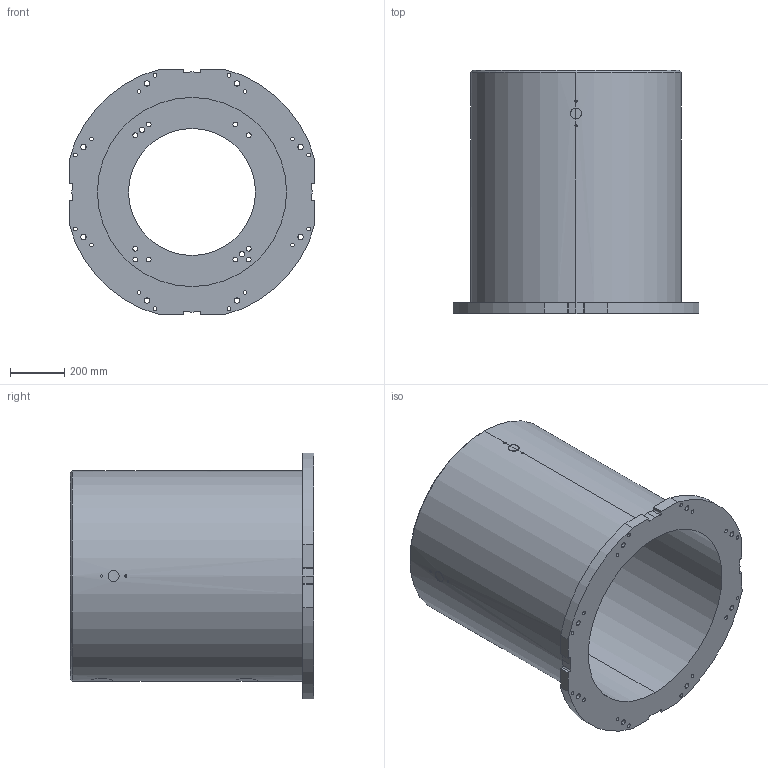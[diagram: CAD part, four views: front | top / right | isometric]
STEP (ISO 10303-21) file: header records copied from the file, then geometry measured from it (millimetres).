
FILE_DESCRIPTION (( 'STEP AP214' ), '1' );
FILE_NAME ('P-900.STEP', '2024-01-24T08:43:32', ( '' ), ( '' ), 'SwSTEP 2.0', 'SolidWorks 2022', '' );
FILE_SCHEMA (( 'AUTOMOTIVE_DESIGN' ));
Length unit declared in the file: millimetre
Products named in the file (1): P-900
Bounding box: 910 x 900 x 910 mm (x, y, z)
Volume: 99245916.1 mm3; surface area: 5245905.4 mm2
Topology: 1 solids, 1 shells, 203 faces, 565 edges, 376 vertices
Faces by surface type: cylinder 149, plane 28, bspline 24, cone 2
Entity records: 12485 total; most frequent: CARTESIAN_POINT 6354, ORIENTED_EDGE 1130, DIRECTION 969, EDGE_CURVE 565, AXIS2_PLACEMENT_3D 378, VERTEX_POINT 376, EDGE_LOOP 289, LINE 213
